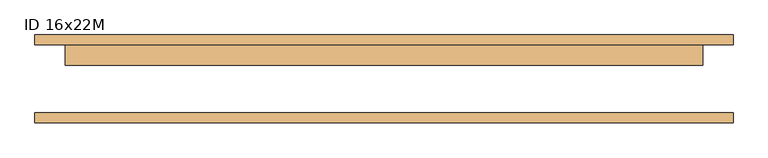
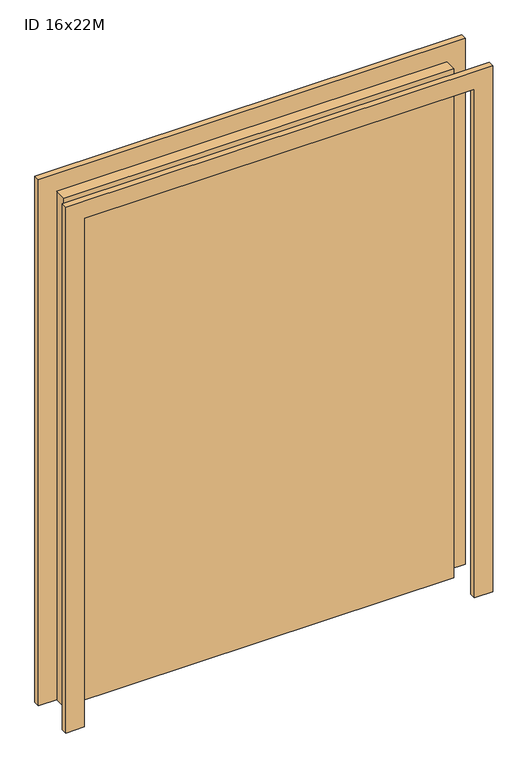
"""IFC4 building model written with IfcOpenShell, lengths in millimetres: door geometry, Innerdør slett tofløya lite sidefelt : ID 16x22M."""

from ifc_helpers import new_model, si_unit, frame, origin, origin_with_axes, place, context, project, spatial, polyline, outline, extrude, source, transform, mapped, element, save


def id_16x22m_f9a22412(model_context):
    return source(origin(), model_context, "Body", "SweptSolid", [
        extrude(outline(polyline([(102.0, 86.0), (102.0, 35.0), (-1508.0, 35.0), (-1508.0, 86.0), (102.0, 86.0)])), origin_with_axes(), (0.0, 0.0, 1.0), 2220.0),
        extrude(outline(polyline([(2220.0, -1508.0), (2220.0, 102.0), (0.0, 102.0), (0.0, 178.0), (2296.0, 178.0), (2296.0, -1584.0), (0.0, -1584.0), (0.0, -1508.0), (2220.0, -1508.0)])), frame((0.0, -111.0, 0.0), z_axis=(0.0, 1.0, 0.0), x_axis=(0.0, 0.0, 1.0)), (0.0, 0.0, 1.0), 25.0),
        extrude(outline(polyline([(2220.0, -1508.0), (2220.0, 102.0), (0.0, 102.0), (0.0, 178.0), (2296.0, 178.0), (2296.0, -1584.0), (0.0, -1584.0), (0.0, -1508.0), (2220.0, -1508.0)])), frame((0.0, 86.0, 0.0), z_axis=(0.0, 1.0, 0.0), x_axis=(0.0, 0.0, 1.0)), (0.0, 0.0, 1.0), 25.0),
    ])


if __name__ == "__main__":
    model = new_model("IFC4")
    model_context = context("Model", 3, world=origin())
    ifc_project = project(units=[si_unit("LENGTHUNIT", "METRE", prefix="MILLI")], contexts=[model_context])
    site = spatial("IfcSite", under=ifc_project)
    building = spatial("IfcBuilding", under=site)
    placement = place(None, origin())
    id_16x22m_shape = id_16x22m_f9a22412(model_context)
    element("IfcDoor", 1, ObjectType="Innerdør slett tofløya lite sidefelt : ID 16x22M", at=placement, inside=building, context=model_context, shape_type="MappedRepresentation", body=[
        mapped(id_16x22m_shape, transform((0.0, 0.0, 0.0), x_axis=(1.0, 0.0, 0.0), y_axis=(0.0, 1.0, 0.0), z_axis=(0.0, 0.0, 1.0))),
    ])
    save(model, "model.ifc")
